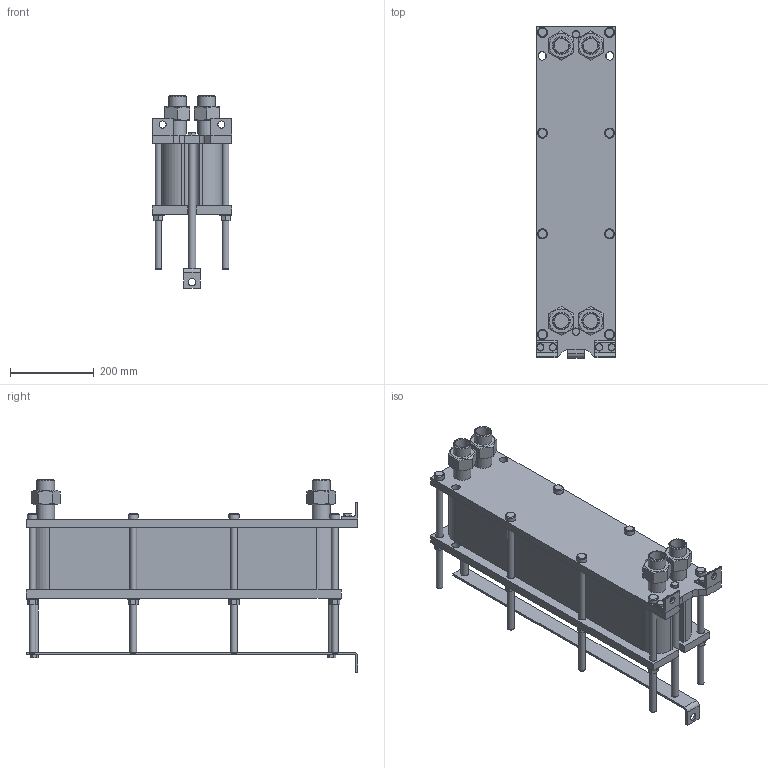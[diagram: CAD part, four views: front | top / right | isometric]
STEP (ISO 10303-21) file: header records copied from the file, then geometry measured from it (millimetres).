
FILE_DESCRIPTION(/* description */ (''),/* implementation_level */ '2;1');
FILE_NAME(/* name */ 'C:\Users\zhuro\Desktop\ENCO\TO\ЭН-008\ЭН-0,5-008-48-1.stp',/* time_stamp */ '2022-06-06T10:49:07+03:00',/* author */ ('zhuro'),/* organization */ (''),/* preprocessor_version */ 'ST-DEVELOPER v18.1',/* originating_system */ 'Autodesk Inventor 2022',/* authorisation */ '');
FILE_SCHEMA (('AUTOMOTIVE_DESIGN { 1 0 10303 214 3 1 1 }'));
Length unit declared in the file: millimetre
Products named in the file (1): ЭН-0,5-008-48-1
Bounding box: 190 x 790 x 459.4 mm (x, y, z)
Volume: 21919890.4 mm3; surface area: 1581665.6 mm2
Topology: 40 solids, 40 shells, 428 faces, 924 edges, 606 vertices
Faces by surface type: plane 273, cylinder 109, cone 40, torus 6
Full cylindrical faces by diameter (mm): 12 x6, 14 x2, 16 x20, 17 x8, 18 x19, 20 x5, 24 x8, 28 x8, 34.3 x8, 42.3 x8
Entity records: 15843 total; most frequent: CARTESIAN_POINT 5991, DIRECTION 1984, ORIENTED_EDGE 1848, EDGE_CURVE 924, AXIS2_PLACEMENT_3D 715, VERTEX_POINT 606, LINE 554, VECTOR 554
